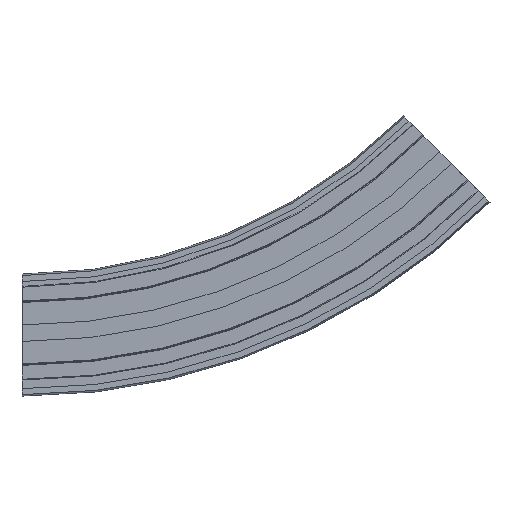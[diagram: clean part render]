
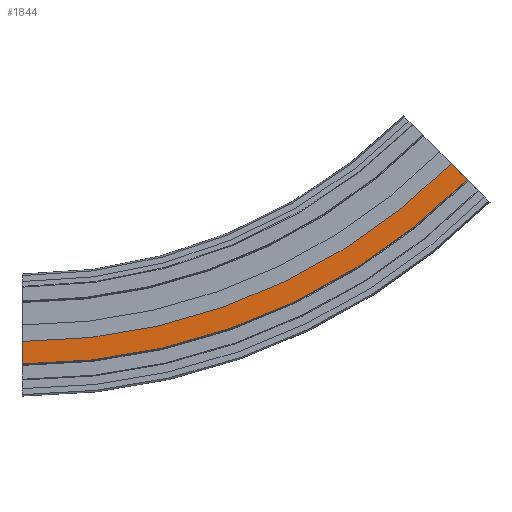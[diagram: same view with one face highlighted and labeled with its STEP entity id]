
A CAD part, front view. The second image highlights one B-rep face of the part: STEP entity #1844.
In plain terms, the highlighted planar face has unit normal (0, -1, 0).
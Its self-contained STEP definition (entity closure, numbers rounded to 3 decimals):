
#1786=CARTESIAN_POINT('',(297.338,-43.0,63.162));
#1787=VERTEX_POINT('',#1786);
#1794=CARTESIAN_POINT('',(0.0,-43.0,-60.));
#1795=VERTEX_POINT('',#1794);
#1796=CARTESIAN_POINT('',(0.,-43.0,360.5));
#1797=DIRECTION('',(0.0,-1.,0.0));
#1798=DIRECTION('',(-0.707,0.0,0.707));
#1799=AXIS2_PLACEMENT_3D('',#1796,#1797,#1798);
#1800=CIRCLE('',#1799,420.5);
#1801=EDGE_CURVE('',#1795,#1787,#1800,.T.);
#1813=CARTESIAN_POINT('',(0.0,-43.0,-52.5));
#1814=DIRECTION('',(0.0,-1.0,0.0));
#1815=DIRECTION('',(0.0,0.0,-1.0));
#1816=AXIS2_PLACEMENT_3D('',#1813,#1814,#1815);
#1817=PLANE('',#1816);
#1818=CARTESIAN_POINT('',(286.732,-43.0,73.768));
#1819=VERTEX_POINT('',#1818);
#1820=CARTESIAN_POINT('',(297.338,-43.0,63.162));
#1821=DIRECTION('',(-0.707,0.0,0.707));
#1822=VECTOR('',#1821,15.);
#1823=LINE('',#1820,#1822);
#1824=EDGE_CURVE('',#1787,#1819,#1823,.T.);
#1825=ORIENTED_EDGE('',*,*,#1824,.T.);
#1826=CARTESIAN_POINT('',(0.0,-43.0,-45.));
#1827=VERTEX_POINT('',#1826);
#1828=CARTESIAN_POINT('',(0.,-43.0,360.5));
#1829=DIRECTION('',(0.0,-1.0,0.0));
#1830=DIRECTION('',(-0.707,0.0,0.707));
#1831=AXIS2_PLACEMENT_3D('',#1828,#1829,#1830);
#1832=CIRCLE('',#1831,405.5);
#1833=EDGE_CURVE('',#1827,#1819,#1832,.T.);
#1834=ORIENTED_EDGE('',*,*,#1833,.F.);
#1835=CARTESIAN_POINT('',(0.0,-43.0,-45.));
#1836=DIRECTION('',(0.0,0.0,-1.0));
#1837=VECTOR('',#1836,15.0);
#1838=LINE('',#1835,#1837);
#1839=EDGE_CURVE('',#1827,#1795,#1838,.T.);
#1840=ORIENTED_EDGE('',*,*,#1839,.T.);
#1841=ORIENTED_EDGE('',*,*,#1801,.T.);
#1842=EDGE_LOOP('',(#1825,#1834,#1840,#1841));
#1843=FACE_OUTER_BOUND('',#1842,.T.);
#1844=ADVANCED_FACE('',(#1843),#1817,.T.);
